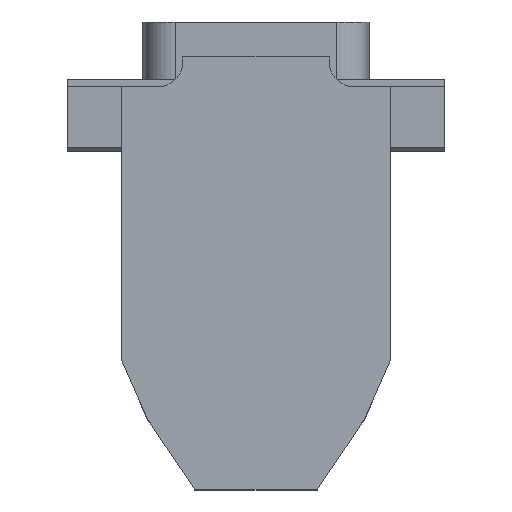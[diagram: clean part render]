
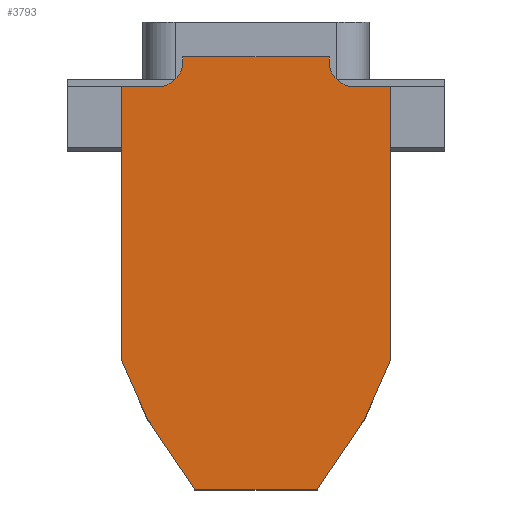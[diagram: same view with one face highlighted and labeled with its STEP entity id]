
A CAD part, top view. The second image highlights one B-rep face of the part: STEP entity #3793.
In plain terms, the highlighted planar face has unit normal (0, 0, 1).
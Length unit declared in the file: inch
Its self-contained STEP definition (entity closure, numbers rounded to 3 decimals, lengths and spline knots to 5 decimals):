
#926=CARTESIAN_POINT('',(-0.4,0.07,0.315));
#927=DIRECTION('',(0.,0.,-1.));
#928=DIRECTION('',(1.,0.,0.));
#929=AXIS2_PLACEMENT_3D('',#926,#927,#928);
#943=CARTESIAN_POINT('',(0.4,0.07,0.315));
#944=DIRECTION('',(0.,0.,-1.));
#945=DIRECTION('',(0.,-1.,0.));
#946=AXIS2_PLACEMENT_3D('',#943,#944,#945);
#1015=DIRECTION('',(-1.,0.,0.));
#1016=VECTOR('',#1015,0.15);
#1017=CARTESIAN_POINT('',(-0.4,-0.03,0.315));
#1018=LINE('',#1017,#1016);
#1019=DIRECTION('',(1.,0.,0.));
#1020=VECTOR('',#1019,0.15);
#1021=CARTESIAN_POINT('',(0.4,-0.03,0.315));
#1022=LINE('',#1021,#1020);
#1023=DIRECTION('',(0.,-1.,0.));
#1024=VECTOR('',#1023,1.12);
#1025=CARTESIAN_POINT('',(0.55,-0.03,0.315));
#1026=LINE('',#1025,#1024);
#1027=DIRECTION('',(-0.401,-0.916,0.));
#1028=VECTOR('',#1027,0.26214);
#1029=CARTESIAN_POINT('',(0.55,-1.15,0.315));
#1030=LINE('',#1029,#1028);
#1031=CARTESIAN_POINT('',(0.445,-1.39019,0.315));
#1032=CARTESIAN_POINT('',(0.38,-1.48679,0.315));
#1033=CARTESIAN_POINT('',(0.315,-1.5834,0.315));
#1034=CARTESIAN_POINT('',(0.25,-1.68,0.315));
#1036=CARTESIAN_POINT('',(-0.445,-1.39019,0.315));
#1037=CARTESIAN_POINT('',(-0.38,-1.48679,0.315));
#1038=CARTESIAN_POINT('',(-0.315,-1.5834,0.315));
#1039=CARTESIAN_POINT('',(-0.25,-1.68,0.315));
#1041=DIRECTION('',(0.401,-0.916,0.));
#1042=VECTOR('',#1041,0.26214);
#1043=CARTESIAN_POINT('',(-0.55,-1.15,0.315));
#1044=LINE('',#1043,#1042);
#1045=DIRECTION('',(0.,-1.,0.));
#1046=VECTOR('',#1045,1.12);
#1047=CARTESIAN_POINT('',(-0.55,-0.03,0.315));
#1048=LINE('',#1047,#1046);
#1057=DIRECTION('',(0.,1.,0.));
#1058=VECTOR('',#1057,0.022);
#1059=CARTESIAN_POINT('',(-0.3,0.07,0.315));
#1060=LINE('',#1059,#1058);
#1069=DIRECTION('',(0.,1.,0.));
#1070=VECTOR('',#1069,0.022);
#1071=CARTESIAN_POINT('',(0.3,0.07,0.315));
#1072=LINE('',#1071,#1070);
#1081=DIRECTION('',(-1.,0.,0.));
#1082=VECTOR('',#1081,0.6);
#1083=CARTESIAN_POINT('',(0.3,0.092,0.315));
#1084=LINE('',#1083,#1082);
#1102=DIRECTION('',(1.,0.,0.));
#1103=VECTOR('',#1102,0.5);
#1104=CARTESIAN_POINT('',(-0.25,-1.68,0.315));
#1105=LINE('',#1104,#1103);
#2099=CARTESIAN_POINT('',(0.55,-0.03,0.315));
#2100=CARTESIAN_POINT('',(0.55,-1.15,0.315));
#2101=VERTEX_POINT('',#2099);
#2102=VERTEX_POINT('',#2100);
#2103=CARTESIAN_POINT('',(0.445,-1.39019,0.315));
#2104=VERTEX_POINT('',#2103);
#2105=VERTEX_POINT('',#1034);
#2111=CARTESIAN_POINT('',(0.3,0.092,0.315));
#2113=VERTEX_POINT('',#2111);
#2115=CARTESIAN_POINT('',(-0.3,0.092,0.315));
#2117=VERTEX_POINT('',#2115);
#2123=CARTESIAN_POINT('',(-0.55,-0.03,0.315));
#2124=CARTESIAN_POINT('',(-0.55,-1.15,0.315));
#2125=VERTEX_POINT('',#2123);
#2126=VERTEX_POINT('',#2124);
#2127=CARTESIAN_POINT('',(-0.445,-1.39019,0.315));
#2128=VERTEX_POINT('',#2127);
#2129=VERTEX_POINT('',#1039);
#2191=CARTESIAN_POINT('',(0.3,0.07,0.315));
#2193=VERTEX_POINT('',#2191);
#2195=CARTESIAN_POINT('',(-0.3,0.07,0.315));
#2197=VERTEX_POINT('',#2195);
#2199=CARTESIAN_POINT('',(0.4,-0.03,0.315));
#2200=VERTEX_POINT('',#2199);
#2201=CARTESIAN_POINT('',(-0.4,-0.03,0.315));
#2202=VERTEX_POINT('',#2201);
#3765=CARTESIAN_POINT('',(0.,-0.03,0.315));
#3766=DIRECTION('',(0.,0.,-1.));
#3767=DIRECTION('',(1.,0.,0.));
#3768=AXIS2_PLACEMENT_3D('',#3765,#3766,#3767);
#3769=PLANE('',#3768);
#3770=ORIENTED_EDGE('',*,*,#3584,.F.);
#3771=ORIENTED_EDGE('',*,*,#3619,.F.);
#3773=ORIENTED_EDGE('',*,*,#3772,.T.);
#3775=ORIENTED_EDGE('',*,*,#3774,.F.);
#3777=ORIENTED_EDGE('',*,*,#3776,.F.);
#3778=ORIENTED_EDGE('',*,*,#3650,.F.);
#3779=ORIENTED_EDGE('',*,*,#3686,.T.);
#3780=ORIENTED_EDGE('',*,*,#3720,.T.);
#3781=ORIENTED_EDGE('',*,*,#3756,.T.);
#3783=ORIENTED_EDGE('',*,*,#3782,.T.);
#3785=ORIENTED_EDGE('',*,*,#3784,.F.);
#3787=ORIENTED_EDGE('',*,*,#3786,.F.);
#3789=ORIENTED_EDGE('',*,*,#3788,.F.);
#3790=ORIENTED_EDGE('',*,*,#3537,.F.);
#3791=EDGE_LOOP('',(#3770,#3771,#3773,#3775,#3777,#3778,#3779,#3780,#3781,#3783,
#3785,#3787,#3789,#3790));
#3792=FACE_OUTER_BOUND('',#3791,.F.);
#3793=ADVANCED_FACE('',(#3792),#3769,.F.);
#930=CIRCLE('',#929,0.1);
#947=CIRCLE('',#946,0.1);
#1035=B_SPLINE_CURVE_WITH_KNOTS('',3,(#1031,#1032,#1033,#1034),.UNSPECIFIED.,
.F.,.F.,(4,4),(0.,1.),.UNSPECIFIED.);
#1040=B_SPLINE_CURVE_WITH_KNOTS('',3,(#1036,#1037,#1038,#1039),.UNSPECIFIED.,
.F.,.F.,(4,4),(0.,1.),.UNSPECIFIED.);
#3537=EDGE_CURVE('',#2125,#2126,#1048,.T.);
#3584=EDGE_CURVE('',#2202,#2125,#1018,.T.);
#3619=EDGE_CURVE('',#2197,#2202,#930,.T.);
#3650=EDGE_CURVE('',#2200,#2193,#947,.T.);
#3686=EDGE_CURVE('',#2200,#2101,#1022,.T.);
#3720=EDGE_CURVE('',#2101,#2102,#1026,.T.);
#3756=EDGE_CURVE('',#2102,#2104,#1030,.T.);
#3772=EDGE_CURVE('',#2197,#2117,#1060,.T.);
#3774=EDGE_CURVE('',#2113,#2117,#1084,.T.);
#3776=EDGE_CURVE('',#2193,#2113,#1072,.T.);
#3782=EDGE_CURVE('',#2104,#2105,#1035,.T.);
#3784=EDGE_CURVE('',#2129,#2105,#1105,.T.);
#3786=EDGE_CURVE('',#2128,#2129,#1040,.T.);
#3788=EDGE_CURVE('',#2126,#2128,#1044,.T.);
